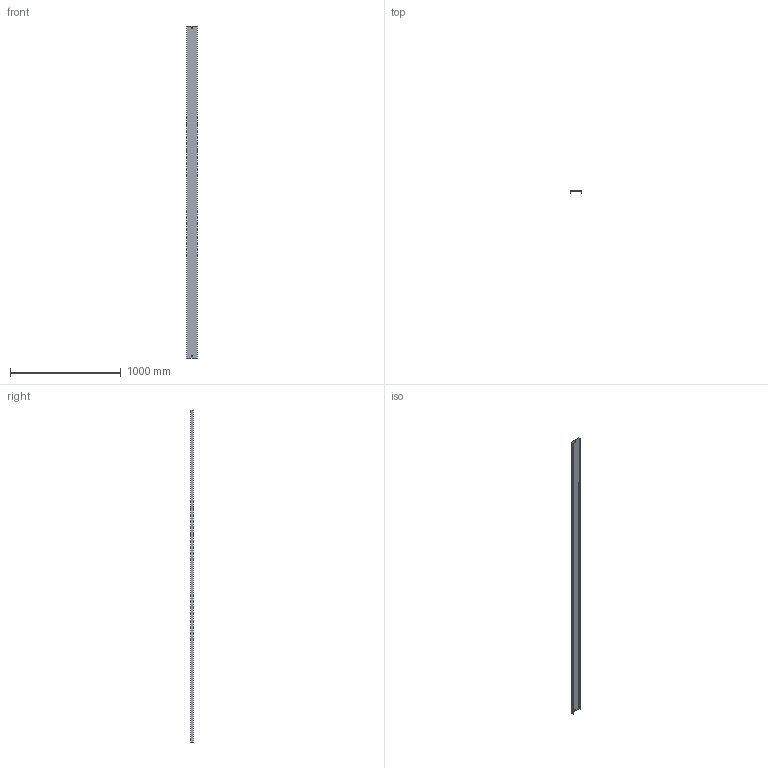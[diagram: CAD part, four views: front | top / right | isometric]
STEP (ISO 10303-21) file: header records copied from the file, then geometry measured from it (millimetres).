
FILE_DESCRIPTION (( 'STEP AP214' ), '1' );
FILE_NAME ('05N3R092.step', '2025-02-21T09:59:14', ( '' ), ( '' ), 'SwSTEP 2.0', 'SolidWorks 2023', '' );
FILE_SCHEMA (( 'AUTOMOTIVE_DESIGN' ));
Length unit declared in the file: millimetre
Products named in the file (1): 05N3R092
Bounding box: 95.5 x 20 x 3000 mm (x, y, z)
Volume: 596074.5 mm3; surface area: 804256.5 mm2
Topology: 1 solids, 1 shells, 18 faces, 48 edges, 32 vertices
Faces by surface type: plane 18
Entity records: 583 total; most frequent: CARTESIAN_POINT 99, ORIENTED_EDGE 96, DIRECTION 86, LINE 48, EDGE_CURVE 48, VECTOR 48, VERTEX_POINT 32, EDGE_LOOP 22
